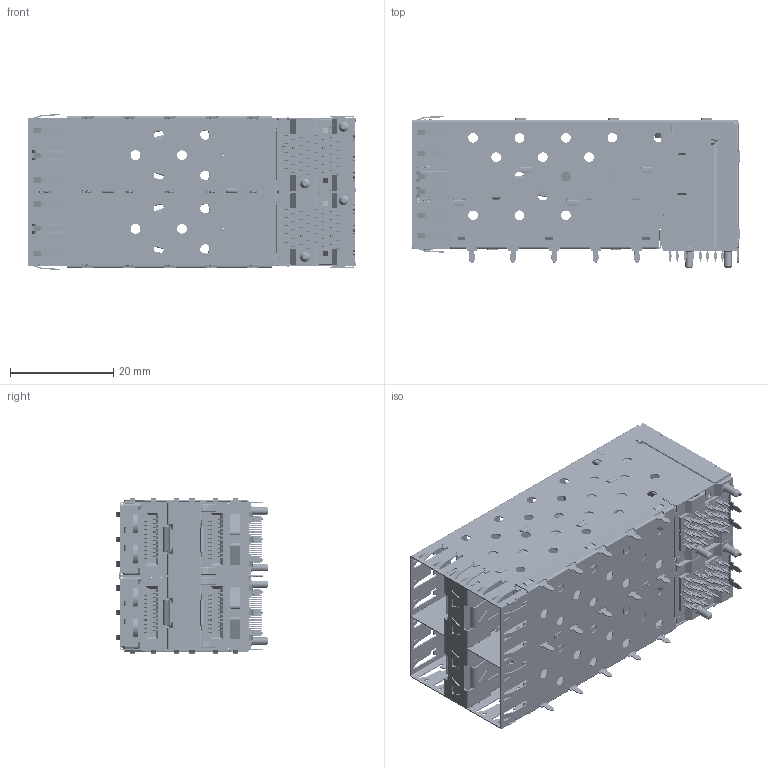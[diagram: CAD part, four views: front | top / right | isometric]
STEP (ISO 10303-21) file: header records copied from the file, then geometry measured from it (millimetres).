
FILE_DESCRIPTION (( 'STEP AP214' ), '1' );
FILE_NAME ('SAB0-2000210100-0000-X.STEP', '2021-06-11T09:13:07', ( '' ), ( '' ), 'SwSTEP 2.0', 'SolidWorks 2012', '' );
FILE_SCHEMA (( 'AUTOMOTIVE_DESIGN' ));
Products named in the file (43): SSD0-P130_for 4lightpipe-LED高度0.6 max(亮面+套筒; SSA0-M130 Conn+Lightpipe Ass''y-1_客戶3D  DUDU; SSD0-P150; SSD0-P140_for 4Lightpipe-LED高度0.6 max(亮面+套筒); SSA0-M210_SSA0-M21000XX 客戶3D-Type A-XIN; SSA0-C110_SSA0-C11001XX 客戶3D-Type B-GND; SSA0-M220-P_D TYPE; SSA0-M220_SSA0-M22001XX 客戶3D-Type B-GND; SSA0-M210-P_C TYPE; SSA0-C110_SSA0-C11002XX 客戶3D-Type C-XIN; SBD0-S140_w\DUDU lightpipe-right ass''y; SAB0-2000210100-0000-X; SSA0-C110_SSA0-C11003XX 客戶3D-Type D-XIN; SSA0-M220-P; SSA0-M220_SSA0-M22000XX 客戶3D-Type A-GND; SBD0-S140_w\DUDU lightpipe-left ass''y; SSA0-M210-P; SSA0-M210_SSA0-M21001XX 客戶3D-Type B-XIN; SBB0-M110-1_pressfit 1.05-2.25-legs5-DUDU 4lightpipe; SSA0-P110; SBB0-S110-1_2.25-Legs16-SFP hole+panel spring ass''y; SSA0-C110_SSA0-C11000XX 客戶3D-Type A-GND; SBA0-S130_組裝; SBB0-S120-1_SFP; SBD0-S130-1_pressfit 1.05-2.25-Legs5-ass''y
Assembly tree (43 placements, depth 4):
  SAB0-2000210100-0000-X
    SBB0-S110-1_2.25-Legs16-SFP hole+panel spring ass''y
    SBB0-M110-1_pressfit 1.05-2.25-legs5-DUDU 4lightpipe
      SBD0-S130-1_pressfit 1.05-2.25-Legs5-ass''y
      SBD0-S140_w\DUDU lightpipe-left ass''y
      SBD0-S140_w\DUDU lightpipe-right ass''y
    SBB0-S120-1_SFP
    SSA0-M130 Conn+Lightpipe Ass''y-1_客戶3D  DUDU  x2
      SSA0-P110
      SBA0-S130_組裝
      SSA0-M220_SSA0-M22000XX 客戶3D-Type A-GND
        SSA0-M220-P
        SSA0-C110_SSA0-C11000XX 客戶3D-Type A-GND
      SSA0-M210_SSA0-M21001XX 客戶3D-Type B-XIN
        SSA0-M210-P
        SSA0-C110_SSA0-C11003XX 客戶3D-Type D-XIN
      SSA0-M210_SSA0-M21000XX 客戶3D-Type A-XIN
        SSA0-M210-P_C TYPE
        SSA0-C110_SSA0-C11002XX 客戶3D-Type C-XIN
      SSA0-M220_SSA0-M22001XX 客戶3D-Type B-GND
        SSA0-M220-P_D TYPE
        SSA0-C110_SSA0-C11001XX 客戶3D-Type B-GND
      SSA0-M210_SSA0-M21000XX 客戶3D-Type A-XIN
        SSA0-M210-P_C TYPE
        SSA0-C110_SSA0-C11002XX 客戶3D-Type C-XIN
      SSA0-M210_SSA0-M21001XX 客戶3D-Type B-XIN
        SSA0-M210-P
        SSA0-C110_SSA0-C11003XX 客戶3D-Type D-XIN
      SSA0-M220_SSA0-M22000XX 客戶3D-Type A-GND
        SSA0-M220-P
        SSA0-C110_SSA0-C11000XX 客戶3D-Type A-GND
      SSA0-M210_SSA0-M21001XX 客戶3D-Type B-XIN
        SSA0-M210-P
        SSA0-C110_SSA0-C11003XX 客戶3D-Type D-XIN
      SSA0-M210_SSA0-M21000XX 客戶3D-Type A-XIN
        SSA0-M210-P_C TYPE
        SSA0-C110_SSA0-C11002XX 客戶3D-Type C-XIN
      SSA0-M220_SSA0-M22001XX 客戶3D-Type B-GND
        SSA0-M220-P_D TYPE
        SSA0-C110_SSA0-C11001XX 客戶3D-Type B-GND
      SSD0-P130_for 4lightpipe-LED高度0.6 max(亮面+套筒
      SSD0-P140_for 4Lightpipe-LED高度0.6 max(亮面+套筒)
      SSD0-P150
Bounding box: 63.5 x 29.51 x 30.25 mm (x, y, z)
Volume: 11758.2 mm3; surface area: 47164.8 mm2
Topology: 255 solids, 255 shells, 16722 faces, 44912 edges, 28552 vertices
Faces by surface type: plane 11318, cylinder 4942, bspline 278, torus 128, cone 56
Entity records: 336978 total; most frequent: CARTESIAN_POINT 67049, ORIENTED_EDGE 56576, DIRECTION 55162, EDGE_CURVE 28288, VECTOR 20556, LINE 20556, VERTEX_POINT 18014, AXIS2_PLACEMENT_3D 17303
